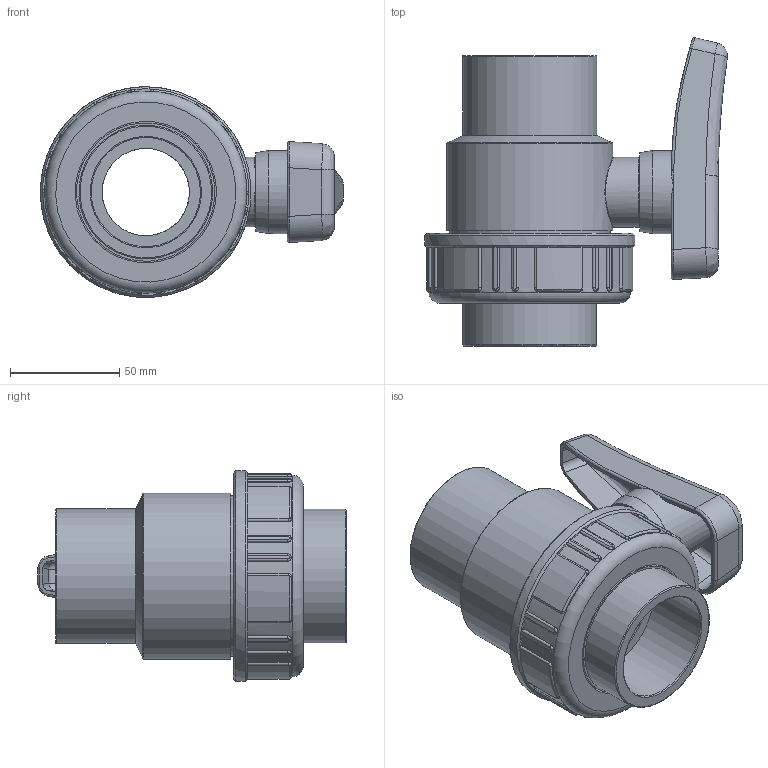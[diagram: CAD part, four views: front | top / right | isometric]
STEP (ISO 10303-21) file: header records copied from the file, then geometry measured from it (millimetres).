
FILE_DESCRIPTION(/* description */ (''),/* implementation_level */ '2;1');
FILE_NAME(/* name */ 'C:\Users\POLYPIPE\Desktop\DATASET INVENTOR\LIBRERIA EFFAST\3D_VALVOLE\3D_VALVOLE A SFERA\3D_SV\3D_BDRSVD\3D_BDRSVD0500.stp',/* time_stamp */ '2018-01-23T16:36:14+01:00',/* author */ ('POLYPIPE'),/* organization */ (''),/* preprocessor_version */ 'ST-DEVELOPER v16.1',/* originating_system */ 'Autodesk Inventor 2016',/* authorisation */ '');
FILE_SCHEMA (('CONFIG_CONTROL_DESIGN'));
Length unit declared in the file: centimetre
Products named in the file (1): 3D_BDRSVD0500
Bounding box: 138.74 x 141.16 x 96.43 mm (x, y, z)
Volume: 417133.5 mm3; surface area: 96957 mm2
Topology: 1 solids, 1 shells, 343 faces, 834 edges, 497 vertices
Faces by surface type: cylinder 111, plane 101, bspline 95, torus 21, sphere 11, cone 4
Full cylindrical faces by diameter (mm): 19.8 x1, 32 x1, 38 x1, 40 x1, 50 x2, 61.3 x1, 61.5 x1, 63.4 x1, 64.7 x1, 71.9 x1, 73.7 x1, 76 x1, 78.5 x1, 92.5 x1, 96.5 x1
Entity records: 32718 total; most frequent: CARTESIAN_POINT 24840, ORIENTED_EDGE 1598, DIRECTION 1469, EDGE_CURVE 799, AXIS2_PLACEMENT_3D 583, VERTEX_POINT 490, EDGE_LOOP 383, STYLED_ITEM 344
